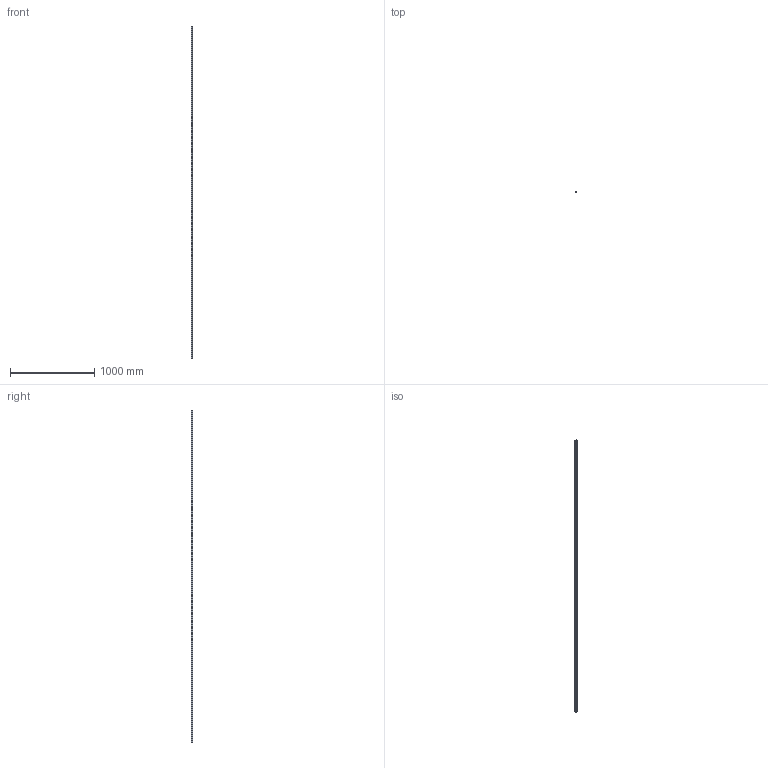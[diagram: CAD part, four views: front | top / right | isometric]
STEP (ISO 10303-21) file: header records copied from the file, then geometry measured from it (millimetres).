
FILE_DESCRIPTION (( 'STEP AP203' ), '1' );
FILE_NAME ('L1016.BL20-3940.step', '2019-06-12T11:59:15', ( '' ), ( '' ), 'SwSTEP 2.0', 'SolidWorks 2017', '' );
FILE_SCHEMA (( 'CONFIG_CONTROL_DESIGN' ));
Length unit declared in the file: millimetre
Products named in the file (1): L1016.BL20-3940
Bounding box: 20 x 16.3 x 3940 mm (x, y, z)
Volume: 1095300.2 mm3; surface area: 316683.1 mm2
Topology: 1 solids, 1 shells, 356 faces, 864 edges, 576 vertices
Faces by surface type: cylinder 268, plane 88
Entity records: 11065 total; most frequent: DIRECTION 2114, CARTESIAN_POINT 1797, ORIENTED_EDGE 1728, AXIS2_PLACEMENT_3D 893, EDGE_CURVE 864, VERTEX_POINT 576, EDGE_LOOP 554, CIRCLE 536
